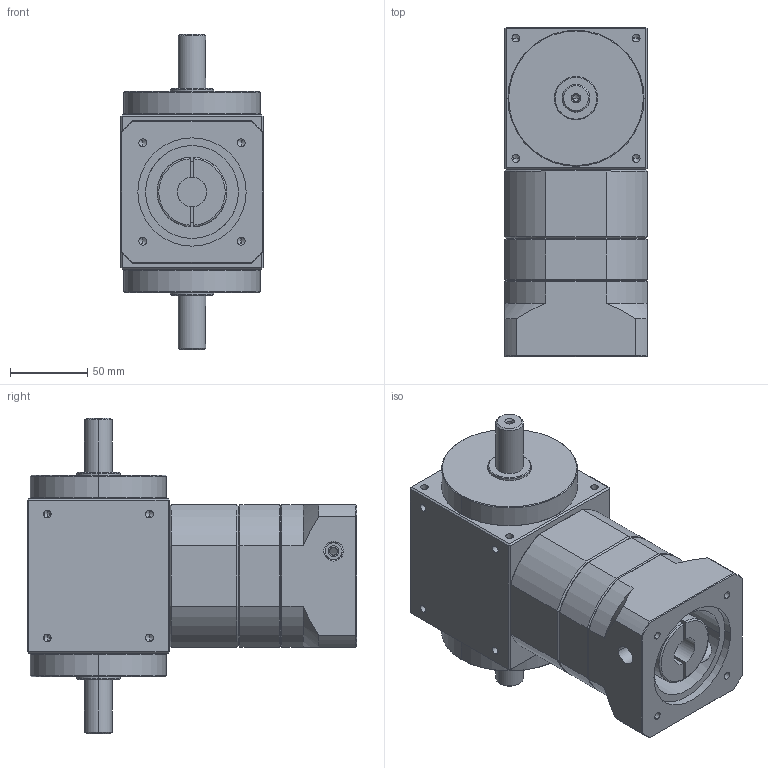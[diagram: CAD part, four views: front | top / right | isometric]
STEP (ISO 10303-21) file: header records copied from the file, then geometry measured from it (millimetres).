
FILE_DESCRIPTION (( 'STEP AP203' ), '1' );
FILE_NAME ('KHT90-S2-L2£r70PCD£r90M6.STEP', '2014-03-26T07:29:05', ( 'KELLY' ), ( '' ), 'SwSTEP 2.0', 'SolidWorks 2012', '' );
FILE_SCHEMA (( 'CONFIG_CONTROL_DESIGN' ));
Length unit declared in the file: millimetre
Products named in the file (1): KHT90-S2-L2｣r70PCD｣r90M6
Bounding box: 92 x 213 x 204 mm (x, y, z)
Volume: 1878683.3 mm3; surface area: 185229.4 mm2
Topology: 6 solids, 6 shells, 353 faces, 810 edges, 444 vertices
Faces by surface type: cylinder 144, cone 108, plane 97, torus 4
Entity records: 10423 total; most frequent: CARTESIAN_POINT 2778, DIRECTION 1620, ORIENTED_EDGE 1516, EDGE_CURVE 758, AXIS2_PLACEMENT_3D 640, VERTEX_POINT 444, EDGE_LOOP 400, FACE_OUTER_BOUND 353
